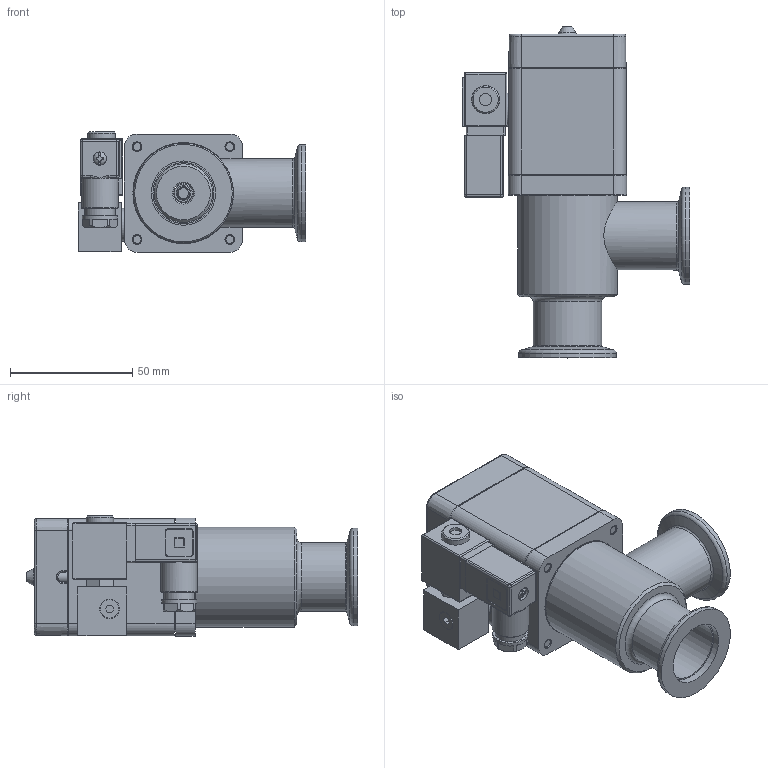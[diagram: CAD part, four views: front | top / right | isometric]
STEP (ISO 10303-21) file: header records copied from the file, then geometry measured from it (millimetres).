
FILE_DESCRIPTION(/* description */ (''),/* implementation_level */ '2;1');
FILE_NAME(/* name */ '1340340616_203.stp',/* time_stamp */ '2013-07-16T13:51:58+02:00',/* author */ (''),/* organization */ (''),/* preprocessor_version */ 'ST-DEVELOPER v11',/* originating_system */ 'SIEMENS PLM Software NX 7.5',/* authorisation */ '');
FILE_SCHEMA (('AP203_CONFIGURATION_CONTROLLED_3D_DESIGN_OF_MECHANICAL_PARTS_AND_ASSEMBLIES_MIM_LF'));
Length unit declared in the file: millimetre
Products named in the file (17): 467882; 437235; 245690.2; 245689.5; 245688.7; 233359; 236204_1.1; 238513.2; 238512.3; 239359.4; 245188.1; 243878.2; n-8501-400.2_NX-ARRAGMNTArrangement 1; 245687.12; 239983.3; 235683.15_NX-ARRAGMNTZUSAMMENST1; 381641
Assembly tree (20 placements, depth 3):
  381641
    235683.15_NX-ARRAGMNTZUSAMMENST1
      238512.3
      238513.2
    243878.2
    245188.1  x4
    239983.3
      236204_1.1  x2
      233359
    239359.4
    245687.12
      245688.7
      245689.5
      245690.2
    n-8501-400.2_NX-ARRAGMNTArrangement 1
      437235
      467882
Bounding box: 93 x 135.91 x 49.3 mm (x, y, z)
Volume: 133239.9 mm3; surface area: 85427.3 mm2
Topology: 25 solids, 25 shells, 773 faces, 1883 edges, 1222 vertices
Faces by surface type: plane 449, cylinder 185, cone 94, bspline 22, torus 18, sphere 5
Full cylindrical faces by diameter (mm): 2 x1, 2.5 x6, 2.8 x1, 2.95 x1, 3 x8, 3.26 x4, 3.3 x4, 4 x12, 4.2 x1, 4.22 x1, 4.4 x1, 4.5 x4, 4.7 x3, 5 x4, 5.1 x1, 5.5 x1, 5.6 x2, 6 x3, 7 x4, 7.4 x2, 7.6 x1, 7.9 x1, 7.975 x3, 8 x6, 8.012 x2, 9.25 x1, 10.2 x1, 11.3 x1, 11.4 x1, 11.5 x2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
Entity records: 24564 total; most frequent: CARTESIAN_POINT 5012, DIRECTION 3324, ORIENTED_EDGE 3044, EDGE_CURVE 1522, AXIS2_PLACEMENT_3D 1201, VERTEX_POINT 1095, EDGE_LOOP 985, LINE 922
